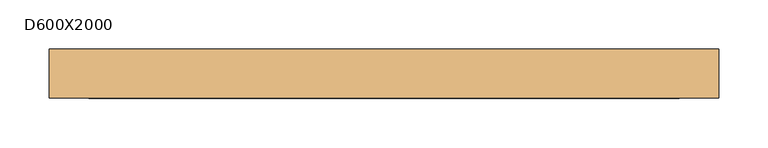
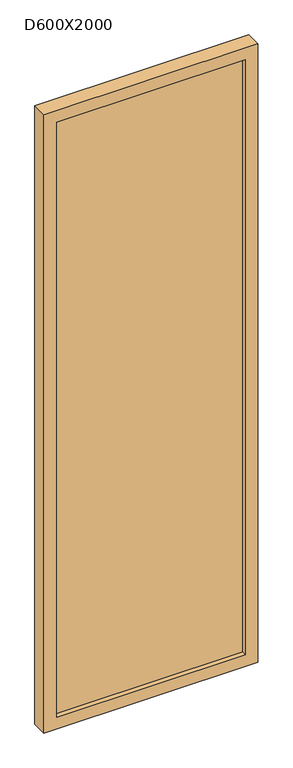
"""IFC4 building model written with IfcOpenShell, lengths in millimetres: door geometry, T1 点検口 : D600X2000."""

import ifcopenshell
import ifcopenshell.guid

model = None  # the IFC model being written
_history = None  # IfcOwnerHistory: only IFC2X3 demands one
_inside = {}  # id of a spatial element -> (the spatial element, [elements in it])
_under = {}  # id of a project, library or spatial element -> (it, [spatial elements below it])
_declared = {}  # id of a project -> (the project, [libraries it declares])
_typed = {}  # id of a type object -> (the type object, [elements of that type])
_made_of = {}  # id of a material, layer set ... -> (it, [elements and type objects made of it])


def new_model(schema):
    """Start an empty IFC model of exactly this schema.

    Asked for "IFC4X3", IfcOpenShell would pick the latest addendum, in which some entities
    have other attributes; the version numbers below select the first issue.
    IFC2X3 requires an IfcOwnerHistory on every rooted entity: one is made here for all.
    """
    global model, _history
    if schema == "IFC4X3":
        model = ifcopenshell.file(schema_version=(4, 3, 0, 0))
    else:
        model = ifcopenshell.file(schema=schema)
    _inside.clear()
    _under.clear()
    _declared.clear()
    _typed.clear()
    _made_of.clear()
    _history = None
    if model.schema == "IFC2X3":
        org = make("IfcOrganization", Name="unknown")
        user = make(
            "IfcPersonAndOrganization",
            ThePerson=make("IfcPerson", FamilyName="unknown"),
            TheOrganization=org,
        )
        app = make(
            "IfcApplication",
            ApplicationDeveloper=org,
            Version="unknown",
            ApplicationFullName="unknown",
            ApplicationIdentifier="unknown",
        )
        _history = make(
            "IfcOwnerHistory",
            OwningUser=user,
            OwningApplication=app,
            ChangeAction="ADDED",
            CreationDate=0,
        )
    return model


def make(cls, **values):
    """One entity of the class cls with the attributes given. An attribute that is None is left unset."""
    return model.create_entity(
        cls, **{name: value for name, value in values.items() if value is not None}
    )


def rooted(cls, **values):
    """An entity with a GlobalId (a new one), such as an element, a storey or a relation."""
    return make(cls, GlobalId=ifcopenshell.guid.new(), OwnerHistory=_history, **values)


def si_unit(unit_type, name, prefix=None):
    """IfcSIUnit, for example si_unit("LENGTHUNIT", "METRE", prefix="MILLI")."""
    return make("IfcSIUnit", UnitType=unit_type, Prefix=prefix, Name=name)


def assignment(units):
    """IfcUnitAssignment: the units of a project."""
    return None if units is None else make("IfcUnitAssignment", Units=units)


def point(xyz):
    """IfcCartesianPoint."""
    return None if xyz is None else make("IfcCartesianPoint", Coordinates=xyz)


def direction(xyz):
    """IfcDirection."""
    return None if xyz is None else make("IfcDirection", DirectionRatios=xyz)


def frame(location, z_axis=None, x_axis=None):
    """IfcAxis2Placement3D, a coordinate frame: its origin and axes. An axis left out is left unset."""
    return make(
        "IfcAxis2Placement3D",
        Location=point(location),
        Axis=direction(z_axis),
        RefDirection=direction(x_axis),
    )


def origin():
    """The frame at (0, 0, 0) with its axes left unset."""
    return frame((0.0, 0.0, 0.0))


def place(relative_to, where):
    """IfcLocalPlacement: puts the frame where relative to a parent placement (None: the world)."""
    return make(
        "IfcLocalPlacement", PlacementRelTo=relative_to, RelativePlacement=where
    )


def context(
    kind, dimensions, precision=None, world=None, true_north=None, identifier=None
):
    """IfcGeometricRepresentationContext, for example the 3D "Model" context."""
    return make(
        "IfcGeometricRepresentationContext",
        ContextIdentifier=identifier,
        ContextType=kind,
        CoordinateSpaceDimension=dimensions,
        Precision=precision,
        WorldCoordinateSystem=world,
        TrueNorth=true_north,
    )


def project(units=None, contexts=None):
    """IfcProject with its units and contexts."""
    return rooted(
        "IfcProject",
        Name="project",
        RepresentationContexts=contexts,
        UnitsInContext=assignment(units),
    )


def spatial(cls, under=None, at=None, **own):
    """A site, building, storey or space (cls), placed at a placement, below another one or the project."""
    s = rooted(cls, ObjectPlacement=at, **own)
    if under is not None:
        _under.setdefault(under.id(), (under, []))[1].append(s)
    return s


def polyline(points):
    """IfcPolyline through the points."""
    return make("IfcPolyline", Points=[point(p) for p in points])


def outline(outer, holes=None, kind="AREA"):
    """IfcArbitraryClosedProfileDef: a profile drawn as a closed curve; with holes, ...WithVoids."""
    if holes is None:
        return make("IfcArbitraryClosedProfileDef", ProfileType=kind, OuterCurve=outer)
    return make(
        "IfcArbitraryProfileDefWithVoids",
        ProfileType=kind,
        OuterCurve=outer,
        InnerCurves=holes,
    )


def extrude(swept, where, along, depth):
    """IfcExtrudedAreaSolid: the profile swept, set in the frame where, extruded along a direction by depth."""
    return make(
        "IfcExtrudedAreaSolid",
        SweptArea=swept,
        Position=where,
        ExtrudedDirection=direction(along),
        Depth=depth,
    )


def faces_of(points, faces, orient=None, outer=None):
    """IfcFace entities. A face is a list of loops; a loop is a list of indices into points, from 0.

    orient and outer hold one flag for each loop. By default every Orientation is true, the
    first loop of a face is its IfcFaceOuterBound and the others are IfcFaceBound.
    """
    made = []
    for i, loops in enumerate(faces):
        bounds = []
        for j, loop in enumerate(loops):
            is_outer = j == 0 if outer is None else outer[i][j]
            bounds.append(
                make(
                    "IfcFaceOuterBound" if is_outer else "IfcFaceBound",
                    Bound=make("IfcPolyLoop", Polygon=[points[k] for k in loop]),
                    Orientation=True if orient is None else orient[i][j],
                )
            )
        made.append(make("IfcFace", Bounds=bounds))
    return made


def faceted_brep(points, faces, orient=None, outer=None, voids=None):
    """IfcFacetedBrep: a solid bounded by flat faces; with voids (closed shells), ...WithVoids."""
    shared = [point(p) for p in points]
    hull = make("IfcClosedShell", CfsFaces=faces_of(shared, faces, orient, outer))
    if voids is None:
        return make("IfcFacetedBrep", Outer=hull)
    return make(
        "IfcFacetedBrepWithVoids",
        Outer=hull,
        Voids=[
            make(cls, CfsFaces=faces_of(shared, fs, o, b)) for cls, fs, o, b in voids
        ],
    )


def shape(context_of_items, identifier, shape_type, items):
    """IfcShapeRepresentation: the items that make up one representation, for example the "Body"."""
    return make(
        "IfcShapeRepresentation",
        ContextOfItems=context_of_items,
        RepresentationIdentifier=identifier,
        RepresentationType=shape_type,
        Items=items,
    )


def source(mapping_origin, context_of_items, identifier, shape_type, items):
    """IfcRepresentationMap: a shape defined once, which mapped items show again and again."""
    return make(
        "IfcRepresentationMap",
        MappingOrigin=mapping_origin,
        MappedRepresentation=shape(context_of_items, identifier, shape_type, items),
    )


def transform(
    local_origin,
    x_axis=None,
    y_axis=None,
    z_axis=None,
    scale=None,
    scale2=None,
    scale3=None,
    uniform=True,
):
    """IfcCartesianTransformationOperator3D, or its non-uniform kind. x_axis, y_axis, z_axis: its Axis1, 2, 3."""
    if uniform:
        return make(
            "IfcCartesianTransformationOperator3D",
            Axis1=direction(x_axis),
            Axis2=direction(y_axis),
            LocalOrigin=point(local_origin),
            Scale=scale,
            Axis3=direction(z_axis),
        )
    return make(
        "IfcCartesianTransformationOperator3DnonUniform",
        Axis1=direction(x_axis),
        Axis2=direction(y_axis),
        LocalOrigin=point(local_origin),
        Scale=scale,
        Axis3=direction(z_axis),
        Scale2=scale2,
        Scale3=scale3,
    )


def mapped(mapping_source, mapping_target):
    """IfcMappedItem: shows the shape of a source again, moved by a transform."""
    return make(
        "IfcMappedItem", MappingSource=mapping_source, MappingTarget=mapping_target
    )


def made_of(thing, what):
    """Note that an element or type object is made of a material, layer set ...; save() writes the relation."""
    if what is not None:
        _made_of.setdefault(what.id(), (what, []))[1].append(thing)
    return thing


def element(
    cls,
    number,
    at=None,
    inside=None,
    cuts=None,
    type_object=None,
    material=None,
    context=None,
    identifier="Body",
    shape_type=None,
    held_by="IfcProductDefinitionShape",
    body=None,
    shapes=None,
    **own,
):
    """One element of the class cls, such as IfcWall. Its Tag is "e" and its number.

    at: its placement. inside: the storey or other place that contains it. cuts: it is an
    opening in that element (IfcRelVoidsElement). A single representation is given by context,
    identifier, shape_type and body (its items); several are given by shapes. held_by: the class
    of the entity that holds the representations. save() writes the other relations.
    """
    e = rooted(cls, Tag="e%d" % number, ObjectPlacement=at, **own)
    if body is not None:
        shapes = [shape(context, identifier, shape_type, body)]
    if shapes is not None:
        e.Representation = make(held_by, Representations=shapes)
    if inside is not None:
        _inside.setdefault(inside.id(), (inside, []))[1].append(e)
    if cuts is not None:
        rooted(
            "IfcRelVoidsElement", RelatingBuildingElement=cuts, RelatedOpeningElement=e
        )
    if type_object is not None:
        _typed.setdefault(type_object.id(), (type_object, []))[1].append(e)
    return made_of(e, material)


def aggregate(whole, parts):
    """IfcRelAggregates: a whole, such as a stair, and the parts it consists of."""
    return rooted("IfcRelAggregates", RelatingObject=whole, RelatedObjects=parts)


def save(model, path):
    """Write the relations noted so far, then the file.

    IfcRelAggregates (storeys below a building ...), IfcRelContainedInSpatialStructure (elements
    in a storey), IfcRelDefinesByType, IfcRelAssociatesMaterial and IfcRelDeclares: one each for
    every whole, place, type object, material and project.
    """
    for whole, parts in _under.values():
        aggregate(whole, parts)
    for where, things in _inside.values():
        rooted(
            "IfcRelContainedInSpatialStructure",
            RelatedElements=things,
            RelatingStructure=where,
        )
    for kind, things in _typed.values():
        rooted("IfcRelDefinesByType", RelatedObjects=things, RelatingType=kind)
    for what, things in _made_of.values():
        rooted("IfcRelAssociatesMaterial", RelatedObjects=things, RelatingMaterial=what)
    for by, libraries in _declared.values():
        rooted("IfcRelDeclares", RelatingContext=by, RelatedDefinitions=libraries)
    model.write(path)


def d600x2000_ad2d4883(model_context):
    return source(origin(), model_context, "Body", "SolidModel", [
        extrude(outline(polyline([(-315.0, -5.0), (-315.0, 30.0), (315.0, 30.0), (315.0, -5.0), (-315.0, -5.0)])), frame((0.0, 0.0, 85.0), z_axis=(0.0, 0.0, 1.0), x_axis=(1.0, 0.0, 0.0)), (0.0, 0.0, 1.0), 2030.0),
        faceted_brep([(315.0, -5.0, 85.0), (315.0, 30.0, 85.0), (-315.0, 30.0, 85.0), (-315.0, -5.0, 85.0), (300.0, -20.0, 100.0), (300.0, -5.0, 100.0), (-300.0, -5.0, 100.0), (-300.0, -20.0, 100.0), (340.0, 30.0, 60.0), (340.0, -20.0, 60.0), (-340.0, -20.0, 60.0), (-340.0, 30.0, 60.0), (-315.0, 30.0, 2115.0), (-315.0, -5.0, 2115.0), (-300.0, -5.0, 2100.0), (-300.0, -20.0, 2100.0), (-340.0, -20.0, 2140.0), (-340.0, 30.0, 2140.0), (315.0, 30.0, 2115.0), (315.0, -5.0, 2115.0), (300.0, -5.0, 2100.0), (300.0, -20.0, 2100.0), (340.0, -20.0, 2140.0), (340.0, 30.0, 2140.0)], [[[0, 1, 2, 3]], [[4, 5, 6, 7]], [[8, 9, 10, 11]], [[3, 2, 12, 13]], [[7, 6, 14, 15]], [[11, 10, 16, 17]], [[13, 12, 18, 19]], [[15, 14, 20, 21]], [[17, 16, 22, 23]], [[19, 18, 1, 0]], [[3, 13, 19, 0], [5, 20, 14, 6]], [[21, 20, 5, 4]], [[9, 22, 16, 10], [7, 15, 21, 4]], [[23, 22, 9, 8]], [[11, 17, 23, 8], [1, 18, 12, 2]]]),
    ])


if __name__ == "__main__":
    model = new_model("IFC4")
    model_context = context("Model", 3, world=origin())
    ifc_project = project(units=[si_unit("LENGTHUNIT", "METRE", prefix="MILLI")], contexts=[model_context])
    site = spatial("IfcSite", under=ifc_project)
    building = spatial("IfcBuilding", under=site)
    placement = place(None, origin())
    d600x2000_shape = d600x2000_ad2d4883(model_context)
    element("IfcDoor", 1, ObjectType="T1 点検口 : D600X2000", at=placement, inside=building, context=model_context, shape_type="MappedRepresentation", body=[
        mapped(d600x2000_shape, transform((0.0, 0.0, 0.0), x_axis=(1.0, 0.0, 0.0), y_axis=(0.0, 1.0, 0.0), z_axis=(0.0, 0.0, 1.0))),
    ])
    save(model, "model.ifc")
